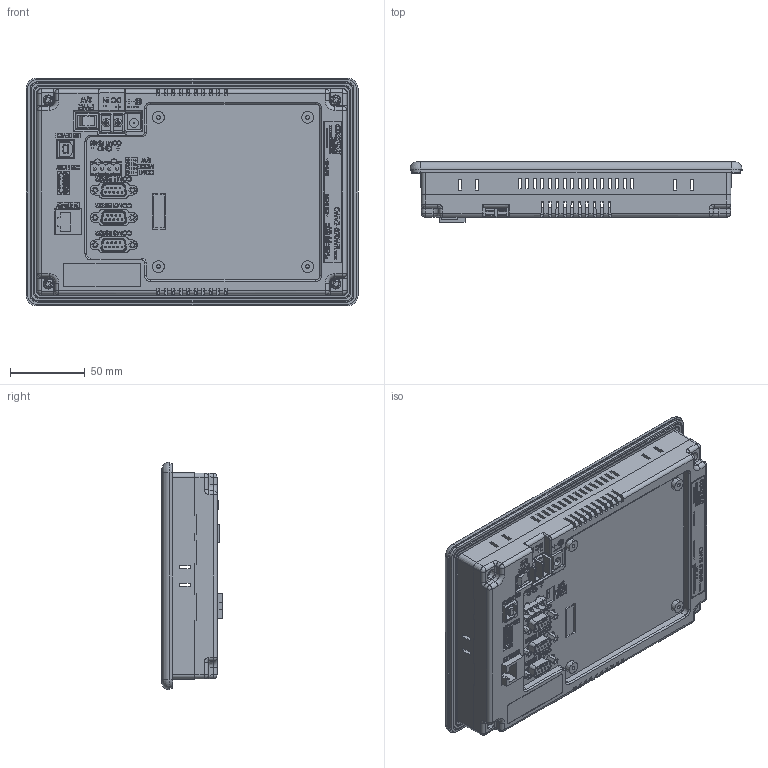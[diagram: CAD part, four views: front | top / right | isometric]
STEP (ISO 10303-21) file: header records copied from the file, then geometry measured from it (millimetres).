
FILE_DESCRIPTION (( 'STEP AP214' ), '1' );
FILE_NAME ('CWV2-070WR_ASM.STEP', '2017-07-19T07:47:12', ( 'luke' ), ( '' ), 'SwSTEP 2.0', 'SolidWorks 2016', '' );
FILE_SCHEMA (( 'AUTOMOTIVE_DESIGN' ));
Length unit declared in the file: millimetre
Products named in the file (1): CWV2-070WR_ASM
Bounding box: 222.4 x 40.5 x 152.4 mm (x, y, z)
Surface area: 183218.7 mm2 (no closed solid volume)
Topology: 0 solids, 106 shells, 2258 faces, 10912 edges, 8504 vertices
Faces by surface type: plane 1413, bspline 331, cylinder 322, cone 107, torus 70, sphere 15
Entity records: 167273 total; most frequent: CARTESIAN_POINT 63403, ORIENTED_EDGE 15439, DIRECTION 13082, EDGE_CURVE 10890, VERTEX_POINT 8496, LINE 7332, VECTOR 7332, AXIS2_PLACEMENT_3D 2875
